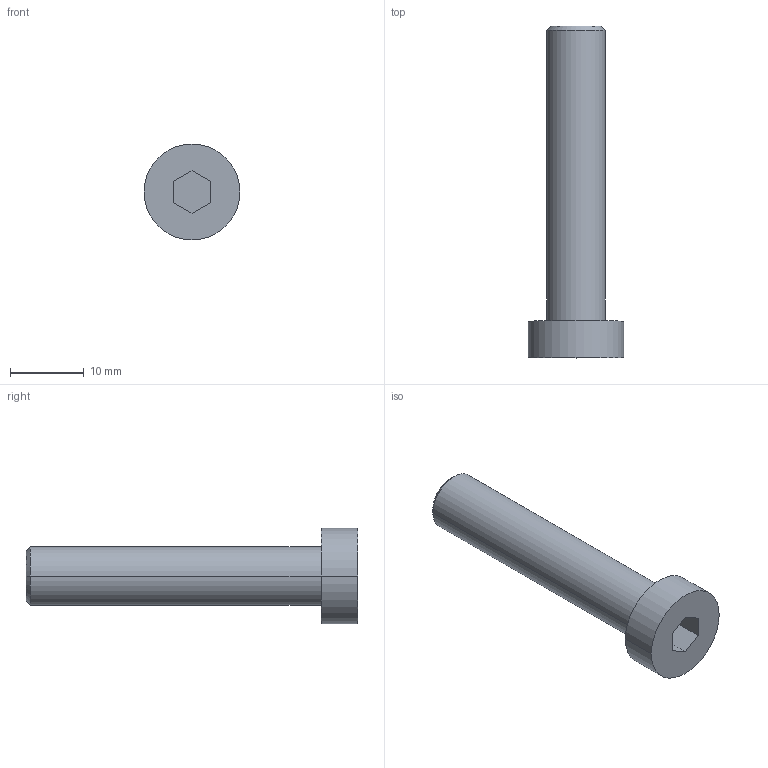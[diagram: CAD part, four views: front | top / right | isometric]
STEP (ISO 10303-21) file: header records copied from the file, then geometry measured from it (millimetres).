
FILE_DESCRIPTION((''),'2;1');
FILE_NAME('VTCEI0840','2002-12-27T',('Lipro doo'),('Lipro d.o.o.'),'PRO/ENGINEER BY PARAMETRIC TECHNOLOGY CORPORATION, 2001150','PRO/ENGINEER BY PARAMETRIC TECHNOLOGY CORPORATION, 2001150','');
FILE_SCHEMA(('CONFIG_CONTROL_DESIGN'));
Length unit declared in the file: millimetre
Products named in the file (1): VTCEI0840
Bounding box: 13 x 45 x 13 mm (x, y, z)
Volume: 2587.7 mm3; surface area: 2386 mm2
Topology: 1 solids, 2 shells, 18 faces, 40 edges, 26 vertices
Faces by surface type: plane 10, cylinder 6, cone 2
Entity records: 546 total; most frequent: DIRECTION 92, CARTESIAN_POINT 85, ORIENTED_EDGE 76, EDGE_CURVE 40, AXIS2_PLACEMENT_3D 33, VECTOR 26, LINE 26, VERTEX_POINT 26
